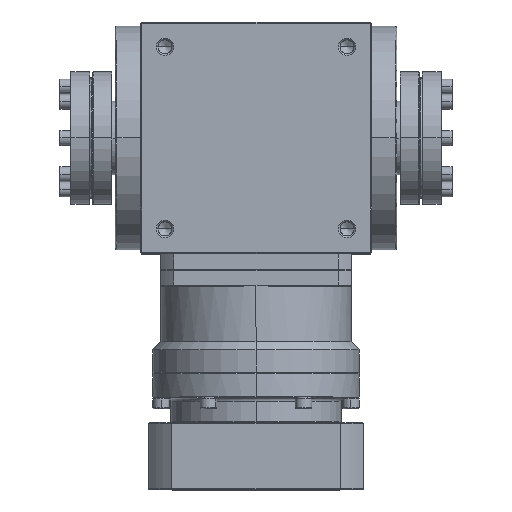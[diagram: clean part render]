
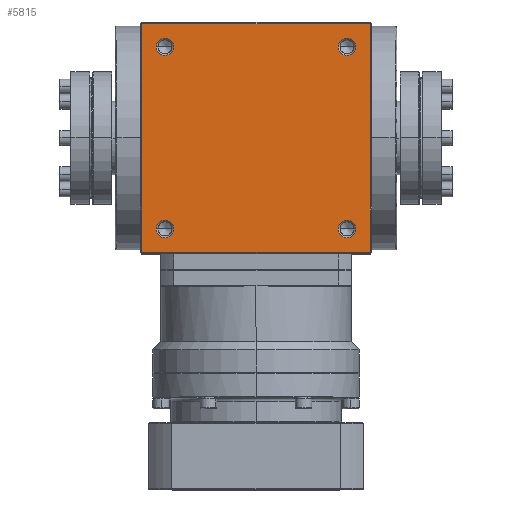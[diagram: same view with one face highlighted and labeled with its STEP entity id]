
A CAD part, top view. The second image highlights one B-rep face of the part: STEP entity #5815.
In plain terms, the highlighted planar face has unit normal (0, 0, 1).
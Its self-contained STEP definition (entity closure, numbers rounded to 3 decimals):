
#180 = ORIENTED_EDGE ( 'NONE', *, *, #40274, .F. ) ;
#1345 = ORIENTED_EDGE ( 'NONE', *, *, #22037, .F. ) ;
#1452 = DIRECTION ( 'NONE',  ( 1., 0., 0. ) ) ;
#1456 = EDGE_LOOP ( 'NONE', ( #8098, #24796 ) ) ;
#2573 = EDGE_CURVE ( 'NONE', #34662, #37427, #9539, .T. ) ;
#2771 = EDGE_CURVE ( 'NONE', #8074, #38553, #32840, .T. ) ;
#2965 = DIRECTION ( 'NONE',  ( 1., 0., 0. ) ) ;
#3374 = CARTESIAN_POINT ( 'NONE',  ( -49.75, -55., 70. ) ) ;
#4256 = ORIENTED_EDGE ( 'NONE', *, *, #13641, .T. ) ;
#4444 = CARTESIAN_POINT ( 'NONE',  ( 69., 69., 70. ) ) ;
#4717 = CARTESIAN_POINT ( 'NONE',  ( 49.75, -55., 70. ) ) ;
#4889 = DIRECTION ( 'NONE',  ( 1., 0., 0. ) ) ;
#5815 = ADVANCED_FACE ( 'NONE', ( #45794, #17127, #31772, #43123, #24793 ), #39502, .F. ) ;
#6269 = ORIENTED_EDGE ( 'NONE', *, *, #2573, .T. ) ;
#6368 = CARTESIAN_POINT ( 'NONE',  ( 55., 55., 70. ) ) ;
#7179 = ORIENTED_EDGE ( 'NONE', *, *, #11572, .F. ) ;
#7218 = DIRECTION ( 'NONE',  ( -1., 0., 0. ) ) ;
#7348 = CIRCLE ( 'NONE', #46584, 5.25 ) ;
#7360 = VECTOR ( 'NONE', #14508, 1000. ) ;
#7447 = DIRECTION ( 'NONE',  ( 1., 0., 0. ) ) ;
#7752 = CARTESIAN_POINT ( 'NONE',  ( 60.25, -55., 70. ) ) ;
#7801 = CARTESIAN_POINT ( 'NONE',  ( -55., 55., 70. ) ) ;
#8074 = VERTEX_POINT ( 'NONE', #14310 ) ;
#8098 = ORIENTED_EDGE ( 'NONE', *, *, #42492, .F. ) ;
#9539 = LINE ( 'NONE', #20845, #16721 ) ;
#9752 = EDGE_CURVE ( 'NONE', #31184, #46763, #46597, .T. ) ;
#9922 = EDGE_CURVE ( 'NONE', #35082, #23378, #40985, .T. ) ;
#10341 = VERTEX_POINT ( 'NONE', #3374 ) ;
#10898 = CARTESIAN_POINT ( 'NONE',  ( 49.75, 55., 70. ) ) ;
#10933 = EDGE_CURVE ( 'NONE', #38809, #23442, #42860, .T. ) ;
#11572 = EDGE_CURVE ( 'NONE', #32031, #10341, #37490, .T. ) ;
#11719 = ORIENTED_EDGE ( 'NONE', *, *, #14146, .F. ) ;
#11744 = DIRECTION ( 'NONE',  ( 0., 0., 1. ) ) ;
#12771 = DIRECTION ( 'NONE',  ( 0., 0., 1. ) ) ;
#12775 = CARTESIAN_POINT ( 'NONE',  ( 69., -69., 70. ) ) ;
#13641 = EDGE_CURVE ( 'NONE', #23378, #34662, #36483, .T. ) ;
#14146 = EDGE_CURVE ( 'NONE', #10341, #32031, #47077, .T. ) ;
#14310 = CARTESIAN_POINT ( 'NONE',  ( -60.25, 55., 70. ) ) ;
#14508 = DIRECTION ( 'NONE',  ( 0., 1., 0. ) ) ;
#14824 = AXIS2_PLACEMENT_3D ( 'NONE', #23304, #11744, #26414 ) ;
#16721 = VECTOR ( 'NONE', #23734, 1000. ) ;
#17093 = ORIENTED_EDGE ( 'NONE', *, *, #9922, .T. ) ;
#17127 = FACE_BOUND ( 'NONE', #29809, .T. ) ;
#17802 = CARTESIAN_POINT ( 'NONE',  ( -55., -55., 70. ) ) ;
#17814 = DIRECTION ( 'NONE',  ( 0., 0., -1. ) ) ;
#17908 = DIRECTION ( 'NONE',  ( 0., 0., 1. ) ) ;
#18000 = CARTESIAN_POINT ( 'NONE',  ( 60.25, 55., 70. ) ) ;
#18650 = EDGE_LOOP ( 'NONE', ( #180, #41295 ) ) ;
#19372 = DIRECTION ( 'NONE',  ( 0., 0., 1. ) ) ;
#19412 = AXIS2_PLACEMENT_3D ( 'NONE', #12775, #17814, #7218 ) ;
#19873 = ORIENTED_EDGE ( 'NONE', *, *, #9752, .F. ) ;
#20845 = CARTESIAN_POINT ( 'NONE',  ( -69., 69., 70. ) ) ;
#22037 = EDGE_CURVE ( 'NONE', #46763, #31184, #7348, .T. ) ;
#22961 = CARTESIAN_POINT ( 'NONE',  ( -55., 55., 70. ) ) ;
#23304 = CARTESIAN_POINT ( 'NONE',  ( 55., 55., 70. ) ) ;
#23378 = VERTEX_POINT ( 'NONE', #44218 ) ;
#23442 = VERTEX_POINT ( 'NONE', #18000 ) ;
#23734 = DIRECTION ( 'NONE',  ( 0., -1., 0. ) ) ;
#23919 = CARTESIAN_POINT ( 'NONE',  ( -69., -69., 70. ) ) ;
#24004 = AXIS2_PLACEMENT_3D ( 'NONE', #17802, #28616, #7447 ) ;
#24222 = CARTESIAN_POINT ( 'NONE',  ( 69., -69., 70. ) ) ;
#24793 = FACE_BOUND ( 'NONE', #1456, .T. ) ;
#24796 = ORIENTED_EDGE ( 'NONE', *, *, #2771, .F. ) ;
#26414 = DIRECTION ( 'NONE',  ( 1., 0., 0. ) ) ;
#26540 = DIRECTION ( 'NONE',  ( 0., 0., 1. ) ) ;
#27449 = DIRECTION ( 'NONE',  ( 1., 0., 0. ) ) ;
#27664 = CARTESIAN_POINT ( 'NONE',  ( -55., -55., 70. ) ) ;
#27962 = CIRCLE ( 'NONE', #41832, 5.25 ) ;
#28616 = DIRECTION ( 'NONE',  ( 0., 0., 1. ) ) ;
#29809 = EDGE_LOOP ( 'NONE', ( #19873, #1345 ) ) ;
#30811 = DIRECTION ( 'NONE',  ( 0., 0., 1. ) ) ;
#31124 = LINE ( 'NONE', #23919, #38757 ) ;
#31147 = CARTESIAN_POINT ( 'NONE',  ( -49.75, 55., 70. ) ) ;
#31184 = VERTEX_POINT ( 'NONE', #7752 ) ;
#31271 = AXIS2_PLACEMENT_3D ( 'NONE', #6368, #17908, #47294 ) ;
#31772 = FACE_BOUND ( 'NONE', #35609, .T. ) ;
#32031 = VERTEX_POINT ( 'NONE', #45251 ) ;
#32085 = AXIS2_PLACEMENT_3D ( 'NONE', #27664, #30811, #1452 ) ;
#32840 = CIRCLE ( 'NONE', #40551, 5.25 ) ;
#33105 = DIRECTION ( 'NONE',  ( -1., 0., 0. ) ) ;
#33511 = CARTESIAN_POINT ( 'NONE',  ( 69., -69., 70. ) ) ;
#34268 = DIRECTION ( 'NONE',  ( 1., 0., 0. ) ) ;
#34662 = VERTEX_POINT ( 'NONE', #41937 ) ;
#35082 = VERTEX_POINT ( 'NONE', #24222 ) ;
#35609 = EDGE_LOOP ( 'NONE', ( #11719, #7179 ) ) ;
#35724 = DIRECTION ( 'NONE',  ( 0., 0., 1. ) ) ;
#36127 = EDGE_LOOP ( 'NONE', ( #6269, #38016, #17093, #4256 ) ) ;
#36358 = CIRCLE ( 'NONE', #14824, 5.25 ) ;
#36483 = LINE ( 'NONE', #4444, #44725 ) ;
#37427 = VERTEX_POINT ( 'NONE', #42966 ) ;
#37490 = CIRCLE ( 'NONE', #32085, 5.25 ) ;
#38016 = ORIENTED_EDGE ( 'NONE', *, *, #42626, .T. ) ;
#38553 = VERTEX_POINT ( 'NONE', #31147 ) ;
#38613 = DIRECTION ( 'NONE',  ( 1., 0., 0. ) ) ;
#38757 = VECTOR ( 'NONE', #38613, 1000. ) ;
#38809 = VERTEX_POINT ( 'NONE', #10898 ) ;
#39502 = PLANE ( 'NONE',  #19412 ) ;
#40274 = EDGE_CURVE ( 'NONE', #23442, #38809, #36358, .T. ) ;
#40551 = AXIS2_PLACEMENT_3D ( 'NONE', #7801, #26540, #34268 ) ;
#40985 = LINE ( 'NONE', #33511, #7360 ) ;
#41295 = ORIENTED_EDGE ( 'NONE', *, *, #10933, .F. ) ;
#41832 = AXIS2_PLACEMENT_3D ( 'NONE', #22961, #19372, #4889 ) ;
#41937 = CARTESIAN_POINT ( 'NONE',  ( -69., 69., 70. ) ) ;
#42492 = EDGE_CURVE ( 'NONE', #38553, #8074, #27962, .T. ) ;
#42626 = EDGE_CURVE ( 'NONE', #37427, #35082, #31124, .T. ) ;
#42743 = AXIS2_PLACEMENT_3D ( 'NONE', #46581, #35724, #2965 ) ;
#42860 = CIRCLE ( 'NONE', #31271, 5.25 ) ;
#42966 = CARTESIAN_POINT ( 'NONE',  ( -69., -69., 70. ) ) ;
#43123 = FACE_BOUND ( 'NONE', #18650, .T. ) ;
#44218 = CARTESIAN_POINT ( 'NONE',  ( 69., 69., 70. ) ) ;
#44725 = VECTOR ( 'NONE', #33105, 1000. ) ;
#45251 = CARTESIAN_POINT ( 'NONE',  ( -60.25, -55., 70. ) ) ;
#45789 = CARTESIAN_POINT ( 'NONE',  ( 55., -55., 70. ) ) ;
#45794 = FACE_OUTER_BOUND ( 'NONE', #36127, .T. ) ;
#46581 = CARTESIAN_POINT ( 'NONE',  ( 55., -55., 70. ) ) ;
#46584 = AXIS2_PLACEMENT_3D ( 'NONE', #45789, #12771, #27449 ) ;
#46597 = CIRCLE ( 'NONE', #42743, 5.25 ) ;
#46763 = VERTEX_POINT ( 'NONE', #4717 ) ;
#47077 = CIRCLE ( 'NONE', #24004, 5.25 ) ;
#47294 = DIRECTION ( 'NONE',  ( 1., 0., 0. ) ) ;
